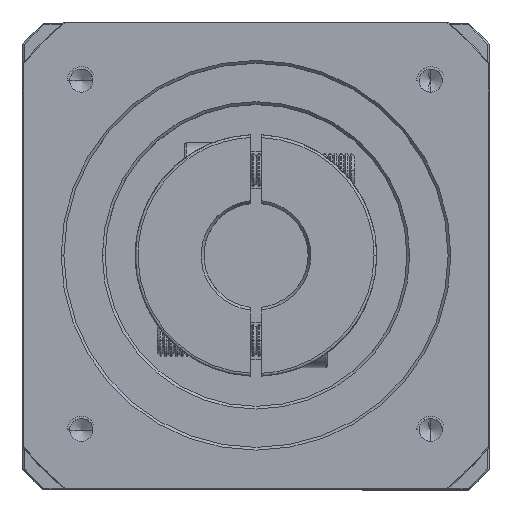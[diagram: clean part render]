
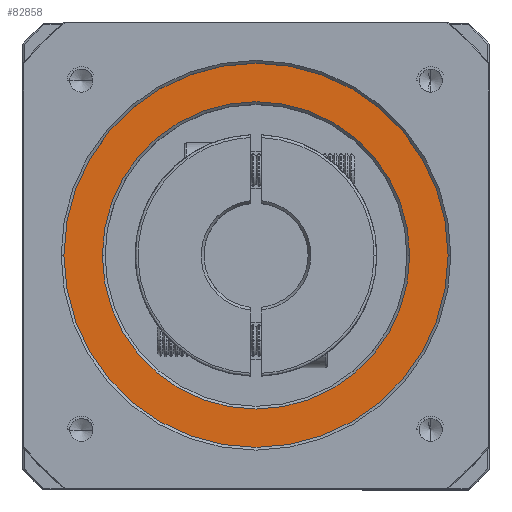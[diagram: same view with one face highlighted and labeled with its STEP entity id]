
A CAD part, top view. The second image highlights one B-rep face of the part: STEP entity #82858.
In plain terms, the highlighted planar face has unit normal (0, 0, 1).
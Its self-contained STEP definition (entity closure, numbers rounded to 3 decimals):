
#2111 = ORIENTED_EDGE ( 'NONE', *, *, #57974, .T. ) ;
#3737 = ORIENTED_EDGE ( 'NONE', *, *, #104645, .T. ) ;
#4929 = EDGE_CURVE ( 'NONE', #73109, #63347, #40298, .T. ) ;
#5290 = ORIENTED_EDGE ( 'NONE', *, *, #4929, .T. ) ;
#8026 = AXIS2_PLACEMENT_3D ( 'NONE', #24730, #81735, #33046 ) ;
#24730 = CARTESIAN_POINT ( 'NONE',  ( -89.569, 30.666, 21.372 ) ) ;
#27277 = EDGE_LOOP ( 'NONE', ( #104202, #2111 ) ) ;
#27295 = DIRECTION ( 'NONE',  ( 0., 0., -1. ) ) ;
#33046 = DIRECTION ( 'NONE',  ( 1., 0., 0. ) ) ;
#35030 = DIRECTION ( 'NONE',  ( 0., 0., 1. ) ) ;
#36326 = DIRECTION ( 'NONE',  ( 0., 0., 1. ) ) ;
#40298 = CIRCLE ( 'NONE', #52136, 28. ) ;
#40952 = CARTESIAN_POINT ( 'NONE',  ( -117.569, 30.666, 21.372 ) ) ;
#50692 = CARTESIAN_POINT ( 'NONE',  ( -61.569, 30.666, 21.372 ) ) ;
#52136 = AXIS2_PLACEMENT_3D ( 'NONE', #69271, #69152, #68920 ) ;
#53104 = VERTEX_POINT ( 'NONE', #98589 ) ;
#57974 = EDGE_CURVE ( 'NONE', #53104, #70752, #71584, .T. ) ;
#62325 = AXIS2_PLACEMENT_3D ( 'NONE', #83666, #35030, #91761 ) ;
#62479 = CIRCLE ( 'NONE', #8026, 35. ) ;
#63347 = VERTEX_POINT ( 'NONE', #50692 ) ;
#67151 = PLANE ( 'NONE',  #62325 ) ;
#68920 = DIRECTION ( 'NONE',  ( 1., 0., 0. ) ) ;
#69152 = DIRECTION ( 'NONE',  ( 0., 0., -1. ) ) ;
#69271 = CARTESIAN_POINT ( 'NONE',  ( -89.569, 30.666, 21.372 ) ) ;
#70752 = VERTEX_POINT ( 'NONE', #93646 ) ;
#71584 = CIRCLE ( 'NONE', #74350, 35. ) ;
#73109 = VERTEX_POINT ( 'NONE', #40952 ) ;
#74350 = AXIS2_PLACEMENT_3D ( 'NONE', #84971, #36326, #93057 ) ;
#75021 = FACE_OUTER_BOUND ( 'NONE', #27277, .T. ) ;
#76170 = CARTESIAN_POINT ( 'NONE',  ( -89.569, 30.666, 21.372 ) ) ;
#76270 = EDGE_CURVE ( 'NONE', #70752, #53104, #62479, .T. ) ;
#81735 = DIRECTION ( 'NONE',  ( 0., 0., 1. ) ) ;
#82085 = AXIS2_PLACEMENT_3D ( 'NONE', #76170, #27295, #84263 ) ;
#82858 = ADVANCED_FACE ( 'NONE', ( #75021, #98960 ), #67151, .T. ) ;
#83666 = CARTESIAN_POINT ( 'NONE',  ( -89.569, 30.666, 21.372 ) ) ;
#84263 = DIRECTION ( 'NONE',  ( 1., 0., 0. ) ) ;
#84971 = CARTESIAN_POINT ( 'NONE',  ( -89.569, 30.666, 21.372 ) ) ;
#89583 = CIRCLE ( 'NONE', #82085, 28. ) ;
#91761 = DIRECTION ( 'NONE',  ( 1., 0., 0. ) ) ;
#93057 = DIRECTION ( 'NONE',  ( 1., 0., 0. ) ) ;
#93646 = CARTESIAN_POINT ( 'NONE',  ( -54.569, 30.666, 21.372 ) ) ;
#98589 = CARTESIAN_POINT ( 'NONE',  ( -124.569, 30.666, 21.372 ) ) ;
#98960 = FACE_BOUND ( 'NONE', #103317, .T. ) ;
#103317 = EDGE_LOOP ( 'NONE', ( #3737, #5290 ) ) ;
#104202 = ORIENTED_EDGE ( 'NONE', *, *, #76270, .T. ) ;
#104645 = EDGE_CURVE ( 'NONE', #63347, #73109, #89583, .T. ) ;
